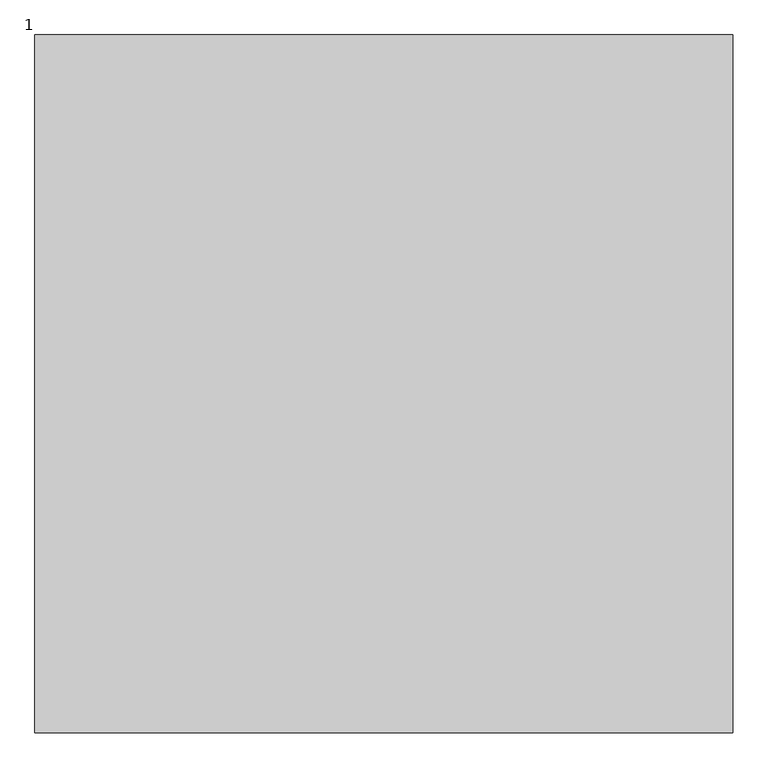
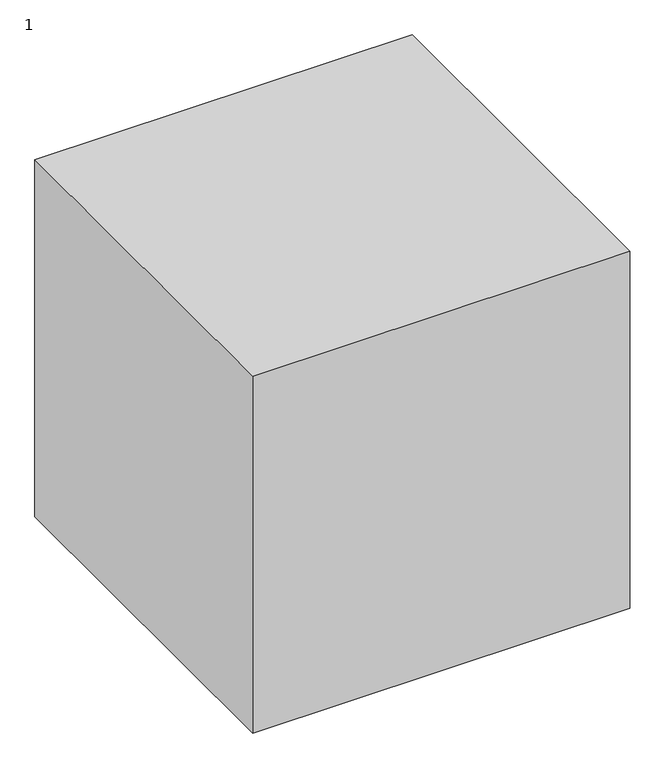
"""IFC4 building model written with IfcOpenShell, lengths in millimetres: proxy geometry, 12221121 : 1."""

from ifc_helpers import new_model, si_unit, origin, origin_with_axes, place, context, project, spatial, polyline, outline, extrude, source, transform, mapped, element, save


def proxy_1_aa82681c(model_context):
    return source(origin(), model_context, "Body", "SweptSolid", [
        extrude(outline(polyline([(-2307.9756708, 3335.2294472), (-2307.9756708, 2335.2294472), (-3307.9756708, 2335.2294472), (-3307.9756708, 3335.2294472), (-2307.9756708, 3335.2294472)])), origin_with_axes(), (0.0, 0.0, 1.0), 1000.0),
    ])


if __name__ == "__main__":
    model = new_model("IFC4")
    model_context = context("Model", 3, world=origin())
    ifc_project = project(units=[si_unit("LENGTHUNIT", "METRE", prefix="MILLI")], contexts=[model_context])
    site = spatial("IfcSite", under=ifc_project)
    building = spatial("IfcBuilding", under=site)
    placement = place(None, origin())
    proxy_1_shape = proxy_1_aa82681c(model_context)
    element("IfcBuildingElementProxy", 1, Name="12221121 : 1", ObjectType="12221121 : 1", at=placement, inside=building, context=model_context, shape_type="MappedRepresentation", body=[
        mapped(proxy_1_shape, transform((0.0, 0.0, 0.0), x_axis=(1.0, 0.0, 0.0), y_axis=(0.0, 1.0, 0.0), z_axis=(0.0, 0.0, 1.0))),
    ])
    save(model, "model.ifc")
